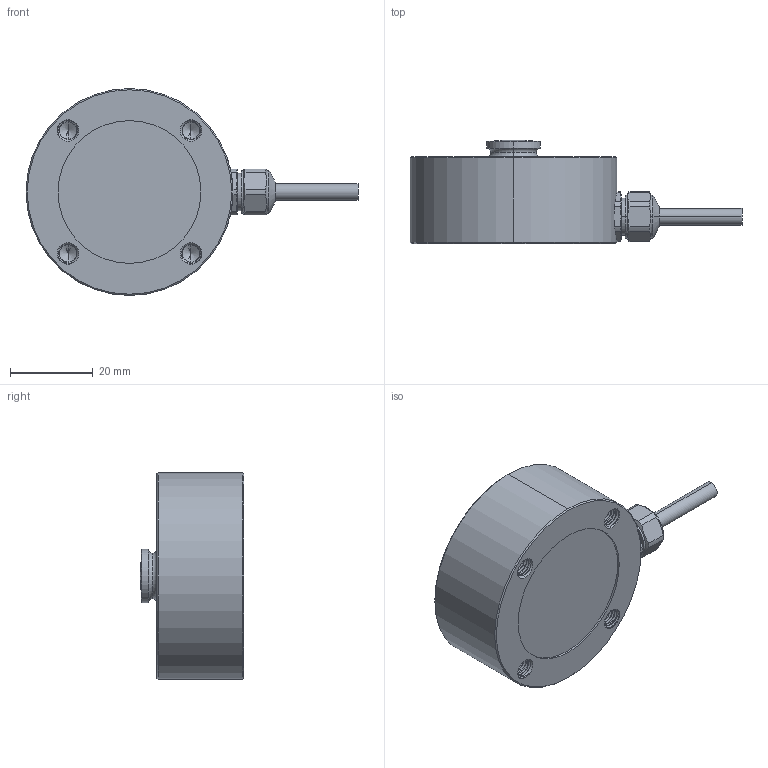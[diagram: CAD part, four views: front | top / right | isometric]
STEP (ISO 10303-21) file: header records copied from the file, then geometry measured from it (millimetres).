
FILE_DESCRIPTION (( 'STEP AP203' ), '1' );
FILE_NAME ('FC50-2KN.STEP', '2024-07-16T08:07:45', ( '' ), ( '' ), 'SwSTEP 2.0', 'SolidWorks 2019', '' );
FILE_SCHEMA (( 'CONFIG_CONTROL_DESIGN' ));
Length unit declared in the file: millimetre
Products named in the file (1): FC50-2KN
Bounding box: 80.2 x 25 x 50 mm (x, y, z)
Volume: 41673.5 mm3; surface area: 9026.3 mm2
Topology: 1 solids, 1 shells, 210 faces, 561 edges, 355 vertices
Faces by surface type: cylinder 133, plane 29, cone 24, bspline 12, torus 10, sphere 2
Entity records: 18890 total; most frequent: CARTESIAN_POINT 14300, ORIENTED_EDGE 1106, DIRECTION 797, EDGE_CURVE 553, VERTEX_POINT 355, AXIS2_PLACEMENT_3D 302, EDGE_LOOP 220, FACE_OUTER_BOUND 210
